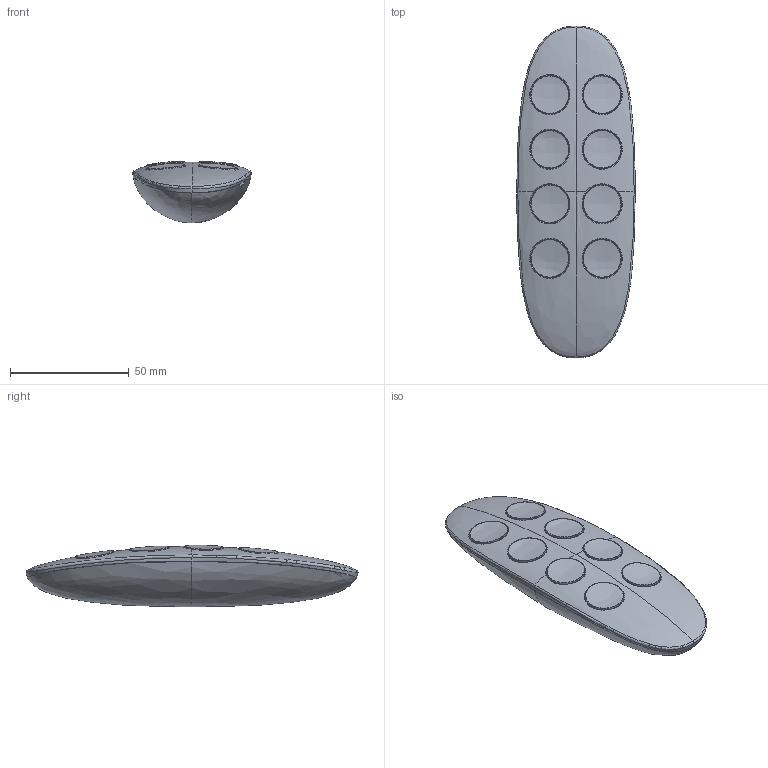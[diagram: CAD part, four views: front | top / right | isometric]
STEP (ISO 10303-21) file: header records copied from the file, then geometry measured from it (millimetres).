
FILE_DESCRIPTION (( 'STEP AP203' ), '1' );
FILE_NAME ('3D_TH25_8按鍵.STEP', '2018-10-11T01:43:41', ( '' ), ( '' ), 'SwSTEP 2.0', 'SolidWorks 2015', '' );
FILE_SCHEMA (( 'CONFIG_CONTROL_DESIGN' ));
Length unit declared in the file: millimetre
Products named in the file (5): TH3_2_button_6按鍵; TH25_up housing_8按鍵; TH3_2_button_171218; 3D_TH25_8按鍵; TFH25_美背cover
Assembly tree (4 placements, depth 2):
  3D_TH25_8按鍵
    TFH25_美背cover
    TH3_2_button_6按鍵
    TH25_up housing_8按鍵
    TH3_2_button_171218
Bounding box: 49.92 x 139.93 x 25.92 mm (x, y, z)
Volume: 19613.5 mm3; surface area: 35410.7 mm2
Topology: 4 solids, 8 shells, 906 faces, 2431 edges, 1554 vertices
Faces by surface type: plane 327, bspline 313, cylinder 224, torus 24, cone 12, sphere 6
Entity records: 100987 total; most frequent: CARTESIAN_POINT 81121, ORIENTED_EDGE 4794, DIRECTION 2778, EDGE_CURVE 2401, VERTEX_POINT 1554, B_SPLINE_CURVE_WITH_KNOTS 1171, EDGE_LOOP 975, AXIS2_PLACEMENT_3D 954
